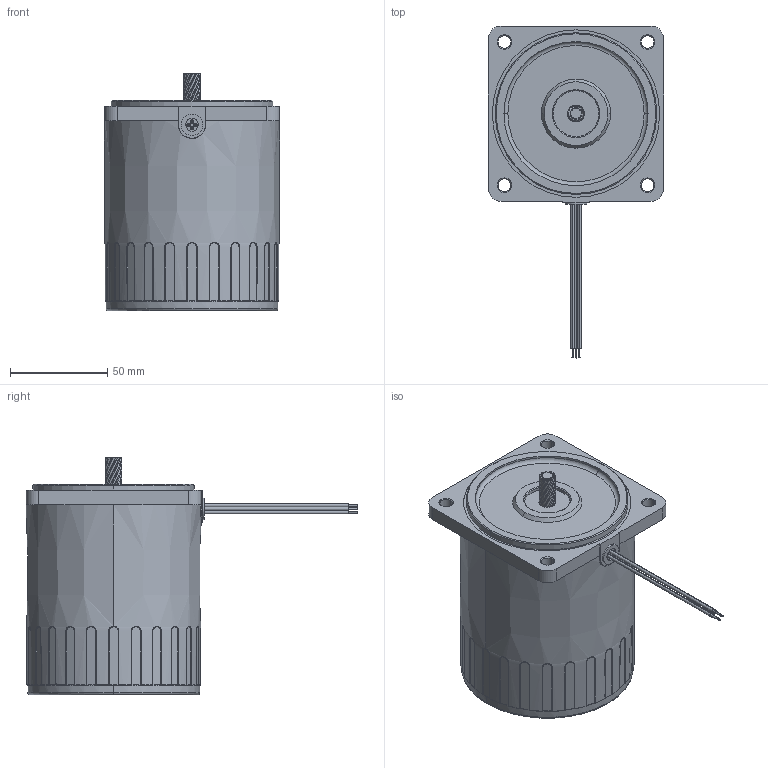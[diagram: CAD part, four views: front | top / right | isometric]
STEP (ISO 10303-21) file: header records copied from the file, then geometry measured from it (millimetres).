
FILE_DESCRIPTION (( 'STEP AP214' ), '1' );
FILE_NAME ('ACP-M-5IK40N.STEP', '2009-11-11T16:25:58', ( 'Tim Raines' ), ( 'Anaheim Automation' ), 'SwSTEP 2.0', 'SolidWorks 2009', '' );
FILE_SCHEMA (( 'AUTOMOTIVE_DESIGN' ));
Length unit declared in the file: millimetre
Products named in the file (1): ACP-M-5IK40N
Bounding box: 90 x 170.5 x 122 mm (x, y, z)
Volume: 676683.3 mm3; surface area: 51317.3 mm2
Topology: 1 solids, 1 shells, 852 faces, 2045 edges, 1165 vertices
Faces by surface type: bspline 426, cylinder 178, plane 130, torus 102, cone 16
Entity records: 54210 total; most frequent: CARTESIAN_POINT 28182, ORIENTED_EDGE 3994, DIRECTION 2817, EDGE_CURVE 1997, AXIS2_PLACEMENT_3D 1225, VERTEX_POINT 1165, EDGE_LOOP 878, UNCERTAINTY_MEASURE_WITH_UNIT 855
